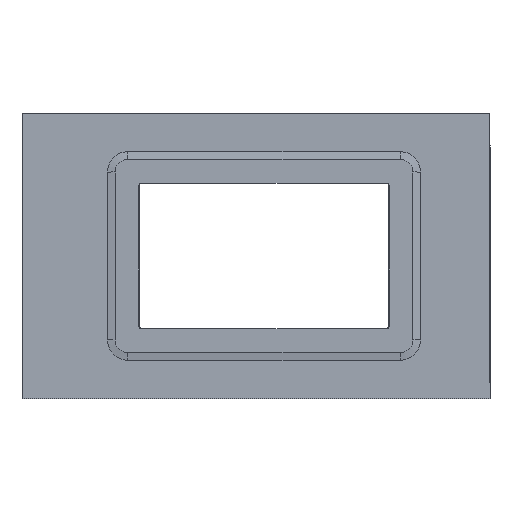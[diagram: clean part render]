
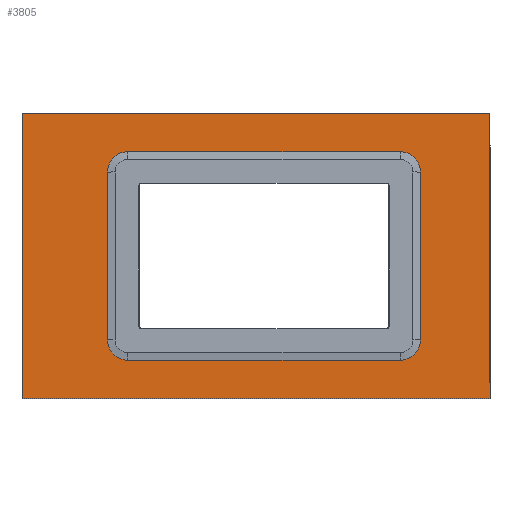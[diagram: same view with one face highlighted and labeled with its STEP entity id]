
A CAD part, top view. The second image highlights one B-rep face of the part: STEP entity #3805.
In plain terms, the highlighted planar face has unit normal (0, 0, 1).
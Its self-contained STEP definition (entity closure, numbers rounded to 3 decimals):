
#17 = CARTESIAN_POINT ( 'NONE',  ( 27., 113., 1.5 ) ) ;
#40 = DIRECTION ( 'NONE',  ( 1., 0., 0. ) ) ;
#65 = DIRECTION ( 'NONE',  ( 0., -1., 0. ) ) ;
#169 = EDGE_CURVE ( 'NONE', #2101, #2795, #2564, .T. ) ;
#203 = ORIENTED_EDGE ( 'NONE', *, *, #5187, .T. ) ;
#230 = LINE ( 'NONE', #1491, #3651 ) ;
#323 = ORIENTED_EDGE ( 'NONE', *, *, #169, .T. ) ;
#336 = EDGE_CURVE ( 'NONE', #4885, #1464, #2500, .T. ) ;
#350 = DIRECTION ( 'NONE',  ( 1., 0., 0. ) ) ;
#465 = AXIS2_PLACEMENT_3D ( 'NONE', #1392, #4238, #3437 ) ;
#545 = AXIS2_PLACEMENT_3D ( 'NONE', #4422, #5216, #40 ) ;
#711 = CIRCLE ( 'NONE', #1943, 8. ) ;
#723 = ORIENTED_EDGE ( 'NONE', *, *, #2813, .T. ) ;
#776 = LINE ( 'NONE', #2840, #2811 ) ;
#787 = VECTOR ( 'NONE', #3922, 1000. ) ;
#859 = CARTESIAN_POINT ( 'NONE',  ( 212., 0., 1.5 ) ) ;
#1020 = ORIENTED_EDGE ( 'NONE', *, *, #4212, .T. ) ;
#1033 = DIRECTION ( 'NONE',  ( 0., 0., -1. ) ) ;
#1038 = DIRECTION ( 'NONE',  ( 0., 1., 0. ) ) ;
#1118 = VERTEX_POINT ( 'NONE', #3982 ) ;
#1223 = FACE_OUTER_BOUND ( 'NONE', #3566, .T. ) ;
#1234 = DIRECTION ( 'NONE',  ( 0., -1., 0. ) ) ;
#1264 = EDGE_LOOP ( 'NONE', ( #723, #5099, #2290, #1020, #323, #3336, #3164, #3826 ) ) ;
#1392 = CARTESIAN_POINT ( 'NONE',  ( 0., 0., 1.5 ) ) ;
#1405 = PLANE ( 'NONE',  #465 ) ;
#1464 = VERTEX_POINT ( 'NONE', #4303 ) ;
#1491 = CARTESIAN_POINT ( 'NONE',  ( 27., 0., 1.5 ) ) ;
#1501 = VERTEX_POINT ( 'NONE', #3854 ) ;
#1754 = CARTESIAN_POINT ( 'NONE',  ( 184.5, 89.7, 1.5 ) ) ;
#1809 = DIRECTION ( 'NONE',  ( 1., 0., 0. ) ) ;
#1896 = VECTOR ( 'NONE', #1038, 1000. ) ;
#1943 = AXIS2_PLACEMENT_3D ( 'NONE', #2127, #2887, #2471 ) ;
#1966 = CARTESIAN_POINT ( 'NONE',  ( 176.5, 23.3, 1.5 ) ) ;
#2015 = ORIENTED_EDGE ( 'NONE', *, *, #2393, .T. ) ;
#2101 = VERTEX_POINT ( 'NONE', #2423 ) ;
#2127 = CARTESIAN_POINT ( 'NONE',  ( 176.5, 89.7, 1.5 ) ) ;
#2223 = VECTOR ( 'NONE', #65, 1000. ) ;
#2237 = CARTESIAN_POINT ( 'NONE',  ( 60.8, 0., 1.5 ) ) ;
#2239 = LINE ( 'NONE', #17, #5080 ) ;
#2289 = DIRECTION ( 'NONE',  ( 1., 0., 0. ) ) ;
#2290 = ORIENTED_EDGE ( 'NONE', *, *, #4747, .T. ) ;
#2393 = EDGE_CURVE ( 'NONE', #3434, #1118, #3876, .T. ) ;
#2423 = CARTESIAN_POINT ( 'NONE',  ( 184.5, 23.3, 1.5 ) ) ;
#2471 = DIRECTION ( 'NONE',  ( 1., 0., 0. ) ) ;
#2500 = CIRCLE ( 'NONE', #545, 8. ) ;
#2564 = CIRCLE ( 'NONE', #3676, 8. ) ;
#2795 = VERTEX_POINT ( 'NONE', #4574 ) ;
#2811 = VECTOR ( 'NONE', #5242, 1000. ) ;
#2813 = EDGE_CURVE ( 'NONE', #4677, #1501, #3545, .T. ) ;
#2840 = CARTESIAN_POINT ( 'NONE',  ( 27., 113., 1.5 ) ) ;
#2887 = DIRECTION ( 'NONE',  ( 0., 0., -1. ) ) ;
#2934 = CARTESIAN_POINT ( 'NONE',  ( 60.8, 89.7, 1.5 ) ) ;
#2972 = CARTESIAN_POINT ( 'NONE',  ( 68.8, 15.3, 1.5 ) ) ;
#3164 = ORIENTED_EDGE ( 'NONE', *, *, #336, .T. ) ;
#3293 = CARTESIAN_POINT ( 'NONE',  ( 184.5, 0., 1.5 ) ) ;
#3336 = ORIENTED_EDGE ( 'NONE', *, *, #4465, .T. ) ;
#3434 = VERTEX_POINT ( 'NONE', #859 ) ;
#3437 = DIRECTION ( 'NONE',  ( 1., 0., 0. ) ) ;
#3457 = DIRECTION ( 'NONE',  ( 1., 0., 0. ) ) ;
#3533 = LINE ( 'NONE', #3852, #787 ) ;
#3540 = ORIENTED_EDGE ( 'NONE', *, *, #5162, .T. ) ;
#3545 = CIRCLE ( 'NONE', #4448, 8. ) ;
#3566 = EDGE_LOOP ( 'NONE', ( #3540, #3884, #2015, #203 ) ) ;
#3651 = VECTOR ( 'NONE', #2289, 1000. ) ;
#3657 = FACE_BOUND ( 'NONE', #1264, .T. ) ;
#3676 = AXIS2_PLACEMENT_3D ( 'NONE', #1966, #4801, #350 ) ;
#3805 = ADVANCED_FACE ( 'NONE', ( #3657, #1223 ), #1405, .T. ) ;
#3826 = ORIENTED_EDGE ( 'NONE', *, *, #3829, .T. ) ;
#3829 = EDGE_CURVE ( 'NONE', #1464, #4677, #4286, .T. ) ;
#3852 = CARTESIAN_POINT ( 'NONE',  ( 0., 15.3, 1.5 ) ) ;
#3854 = CARTESIAN_POINT ( 'NONE',  ( 68.8, 97.7, 1.5 ) ) ;
#3876 = LINE ( 'NONE', #4733, #1896 ) ;
#3884 = ORIENTED_EDGE ( 'NONE', *, *, #3964, .T. ) ;
#3922 = DIRECTION ( 'NONE',  ( -1., 0., 0. ) ) ;
#3964 = EDGE_CURVE ( 'NONE', #5052, #3434, #230, .T. ) ;
#3975 = LINE ( 'NONE', #4695, #4579 ) ;
#3982 = CARTESIAN_POINT ( 'NONE',  ( 212., 113., 1.5 ) ) ;
#4044 = VECTOR ( 'NONE', #4647, 1000. ) ;
#4151 = CARTESIAN_POINT ( 'NONE',  ( 176.5, 97.7, 1.5 ) ) ;
#4212 = EDGE_CURVE ( 'NONE', #4314, #2101, #4685, .T. ) ;
#4238 = DIRECTION ( 'NONE',  ( 0., 0., 1. ) ) ;
#4285 = CARTESIAN_POINT ( 'NONE',  ( 68.8, 89.7, 1.5 ) ) ;
#4286 = LINE ( 'NONE', #2237, #4044 ) ;
#4303 = CARTESIAN_POINT ( 'NONE',  ( 60.8, 23.3, 1.5 ) ) ;
#4314 = VERTEX_POINT ( 'NONE', #1754 ) ;
#4415 = EDGE_CURVE ( 'NONE', #1501, #4703, #3975, .T. ) ;
#4422 = CARTESIAN_POINT ( 'NONE',  ( 68.8, 23.3, 1.5 ) ) ;
#4448 = AXIS2_PLACEMENT_3D ( 'NONE', #4285, #1033, #1809 ) ;
#4465 = EDGE_CURVE ( 'NONE', #2795, #4885, #3533, .T. ) ;
#4574 = CARTESIAN_POINT ( 'NONE',  ( 176.5, 15.3, 1.5 ) ) ;
#4579 = VECTOR ( 'NONE', #3457, 1000. ) ;
#4647 = DIRECTION ( 'NONE',  ( 0., 1., 0. ) ) ;
#4677 = VERTEX_POINT ( 'NONE', #2934 ) ;
#4685 = LINE ( 'NONE', #3293, #2223 ) ;
#4695 = CARTESIAN_POINT ( 'NONE',  ( 0., 97.7, 1.5 ) ) ;
#4703 = VERTEX_POINT ( 'NONE', #4151 ) ;
#4733 = CARTESIAN_POINT ( 'NONE',  ( 212., 113., 1.5 ) ) ;
#4747 = EDGE_CURVE ( 'NONE', #4703, #4314, #711, .T. ) ;
#4758 = CARTESIAN_POINT ( 'NONE',  ( 27., 0., 1.5 ) ) ;
#4790 = VERTEX_POINT ( 'NONE', #4911 ) ;
#4801 = DIRECTION ( 'NONE',  ( 0., 0., -1. ) ) ;
#4885 = VERTEX_POINT ( 'NONE', #2972 ) ;
#4911 = CARTESIAN_POINT ( 'NONE',  ( 27., 113., 1.5 ) ) ;
#5052 = VERTEX_POINT ( 'NONE', #4758 ) ;
#5080 = VECTOR ( 'NONE', #1234, 1000. ) ;
#5099 = ORIENTED_EDGE ( 'NONE', *, *, #4415, .T. ) ;
#5162 = EDGE_CURVE ( 'NONE', #4790, #5052, #2239, .T. ) ;
#5187 = EDGE_CURVE ( 'NONE', #1118, #4790, #776, .T. ) ;
#5216 = DIRECTION ( 'NONE',  ( 0., 0., -1. ) ) ;
#5242 = DIRECTION ( 'NONE',  ( -1., 0., 0. ) ) ;
